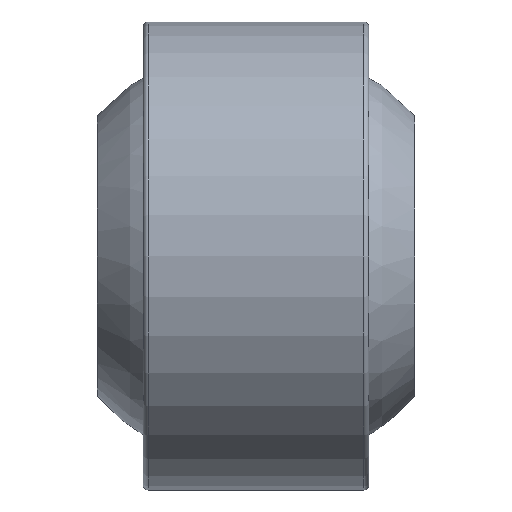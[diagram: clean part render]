
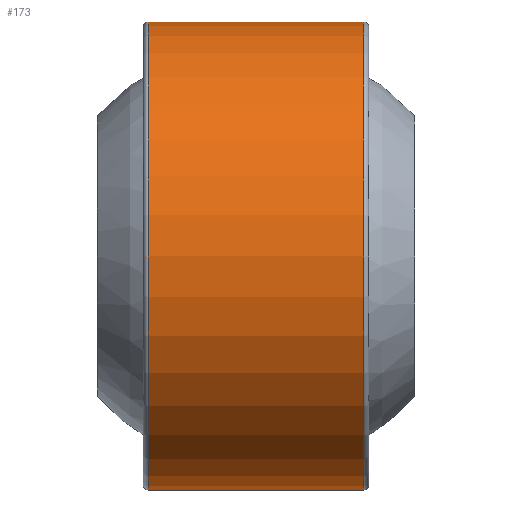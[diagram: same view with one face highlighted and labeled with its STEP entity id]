
A CAD part, front view. The second image highlights one B-rep face of the part: STEP entity #173.
In plain terms, the highlighted cylindrical face has radius 14 mm (diameter 28 mm), a full revolution.
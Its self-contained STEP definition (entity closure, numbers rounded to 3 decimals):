
#173 = ADVANCED_FACE( '', ( #195, #196, #197 ), #198, .T. );
#195 = FACE_OUTER_BOUND( '', #231, .T. );
#196 = FACE_BOUND( '', #232, .T. );
#197 = FACE_OUTER_BOUND( '', #233, .T. );
#198 = CYLINDRICAL_SURFACE( '', #234, 14. );
#231 = EDGE_LOOP( '', ( #274 ) );
#232 = EDGE_LOOP( '', ( #275 ) );
#233 = EDGE_LOOP( '', ( #276 ) );
#234 = AXIS2_PLACEMENT_3D( '', #277, #278, #279 );
#274 = ORIENTED_EDGE( '', *, *, #316, .T. );
#275 = ORIENTED_EDGE( '', *, *, #317, .T. );
#276 = ORIENTED_EDGE( '', *, *, #314, .F. );
#277 = CARTESIAN_POINT( '', ( 6.75, 0., 0. ) );
#278 = DIRECTION( '', ( -1., 0., 0. ) );
#279 = DIRECTION( '', ( 0., 0., -1. ) );
#314 = EDGE_CURVE( '', #330, #330, #331, .T. );
#316 = EDGE_CURVE( '', #334, #334, #335, .T. );
#317 = EDGE_CURVE( '', #336, #336, #337, .T. );
#330 = VERTEX_POINT( '', #354 );
#331 = CIRCLE( '', #355, 14. );
#334 = VERTEX_POINT( '', #358 );
#335 = CIRCLE( '', #359, 14. );
#336 = VERTEX_POINT( '', #360 );
#337 = B_SPLINE_CURVE_WITH_KNOTS( '', 3, ( #361, #362, #363, #364, #365, #366, #367, #368, #369, #370, #371, #372, #373, #374, #375, #376, #377, #378, #379, #380, #381, #382, #383, #384, #385, #386, #387, #388, #389, #390, #391, #392 ), .UNSPECIFIED., .T., .F., ( 2, 2, 2, 2, 2, 2, 2, 2, 2, 2, 2, 2, 2, 2, 2, 2, 2, 2 ), ( -0.001, 0., 0., 0.001, 0.001, 0.002, 0.002, 0.002, 0.003, 0.003, 0.004, 0.004, 0.004, 0.005, 0.005, 0.005, 0.006, 0.007 ), .UNSPECIFIED. );
#354 = CARTESIAN_POINT( '', ( 6.45, 0., -14. ) );
#355 = AXIS2_PLACEMENT_3D( '', #413, #414, #415 );
#358 = CARTESIAN_POINT( '', ( -6.45, 0., -14. ) );
#359 = AXIS2_PLACEMENT_3D( '', #419, #420, #421 );
#360 = CARTESIAN_POINT( '', ( 1., 14., 0. ) );
#361 = CARTESIAN_POINT( '', ( 1., 14., -0.264 ) );
#362 = CARTESIAN_POINT( '', ( 1., 14., 0.132 ) );
#363 = CARTESIAN_POINT( '', ( 0.974, 13.998, 0.262 ) );
#364 = CARTESIAN_POINT( '', ( 0.874, 13.991, 0.504 ) );
#365 = CARTESIAN_POINT( '', ( 0.799, 13.987, 0.615 ) );
#366 = CARTESIAN_POINT( '', ( 0.615, 13.977, 0.799 ) );
#367 = CARTESIAN_POINT( '', ( 0.503, 13.973, 0.874 ) );
#368 = CARTESIAN_POINT( '', ( 0.263, 13.966, 0.974 ) );
#369 = CARTESIAN_POINT( '', ( 0.131, 13.964, 1. ) );
#370 = CARTESIAN_POINT( '', ( -0.13, 13.964, 1. ) );
#371 = CARTESIAN_POINT( '', ( -0.261, 13.966, 0.974 ) );
#372 = CARTESIAN_POINT( '', ( -0.503, 13.973, 0.874 ) );
#373 = CARTESIAN_POINT( '', ( -0.613, 13.977, 0.801 ) );
#374 = CARTESIAN_POINT( '', ( -0.8, 13.987, 0.614 ) );
#375 = CARTESIAN_POINT( '', ( -0.874, 13.991, 0.504 ) );
#376 = CARTESIAN_POINT( '', ( -0.974, 13.998, 0.262 ) );
#377 = CARTESIAN_POINT( '', ( -1., 14., 0.131 ) );
#378 = CARTESIAN_POINT( '', ( -1., 14., -0.13 ) );
#379 = CARTESIAN_POINT( '', ( -0.974, 13.998, -0.262 ) );
#380 = CARTESIAN_POINT( '', ( -0.874, 13.991, -0.503 ) );
#381 = CARTESIAN_POINT( '', ( -0.8, 13.987, -0.614 ) );
#382 = CARTESIAN_POINT( '', ( -0.616, 13.978, -0.799 ) );
#383 = CARTESIAN_POINT( '', ( -0.505, 13.973, -0.873 ) );
#384 = CARTESIAN_POINT( '', ( -0.263, 13.966, -0.974 ) );
#385 = CARTESIAN_POINT( '', ( -0.133, 13.964, -1. ) );
#386 = CARTESIAN_POINT( '', ( 0.131, 13.964, -1. ) );
#387 = CARTESIAN_POINT( '', ( 0.261, 13.966, -0.974 ) );
#388 = CARTESIAN_POINT( '', ( 0.503, 13.973, -0.874 ) );
#389 = CARTESIAN_POINT( '', ( 0.614, 13.977, -0.8 ) );
#390 = CARTESIAN_POINT( '', ( 0.891, 13.991, -0.523 ) );
#391 = CARTESIAN_POINT( '', ( 1., 14., -0.264 ) );
#392 = CARTESIAN_POINT( '', ( 1., 14., 0.132 ) );
#413 = CARTESIAN_POINT( '', ( 6.45, 0., 0. ) );
#414 = DIRECTION( '', ( 1., 0., 0. ) );
#415 = DIRECTION( '', ( 0., 0., -1. ) );
#419 = CARTESIAN_POINT( '', ( -6.45, 0., 0. ) );
#420 = DIRECTION( '', ( 1., 0., 0. ) );
#421 = DIRECTION( '', ( 0., 0., -1. ) );
